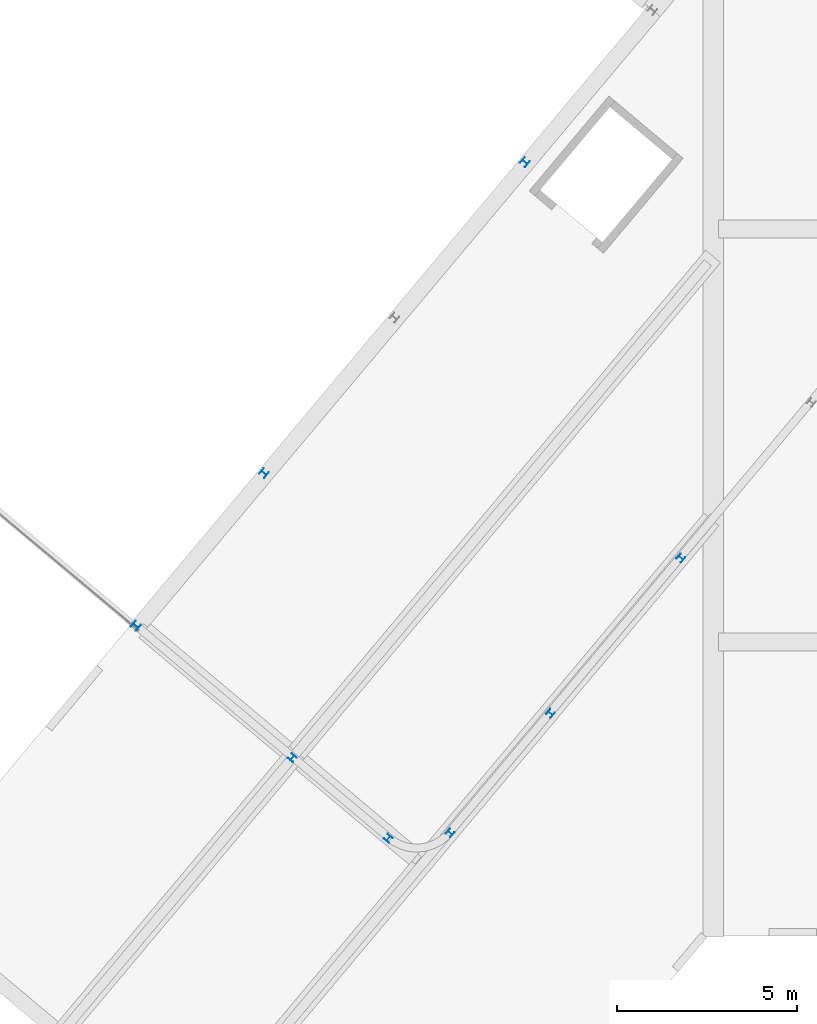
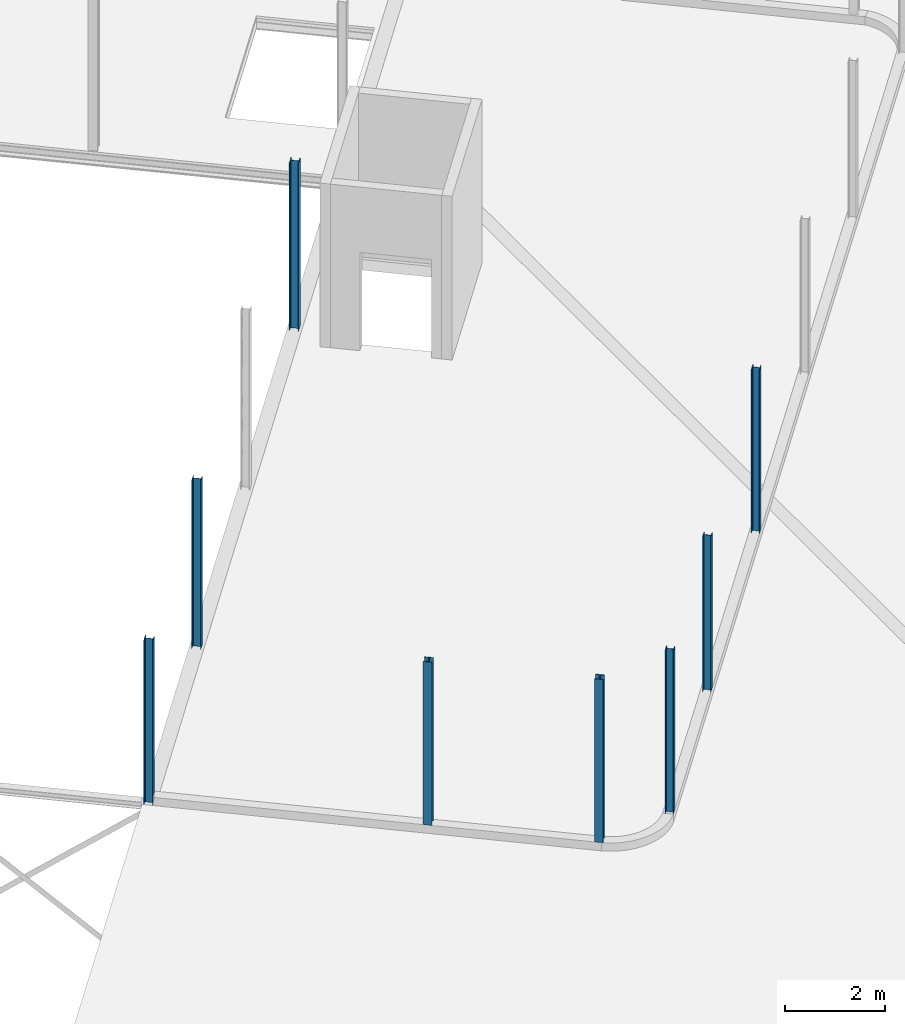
# One storey, part 1 of 11: 8 columns.
"""IFC2X3 building model written with IfcOpenShell, lengths in millimetres."""

from ifc_helpers import new_model, entity, si_unit, converted_unit, derived_unit, direction, frame, frame_2d, origin, origin_2d_with_axis, place, context, subcontext, project, spatial, i_section, extrude, source, transform, mapped, material, type_object, type_shapes, element, save


model = new_model("IFC2X3")

# Units and contexts
model_context = context("Model", 3, precision=0.01, world=origin(), true_north=direction((6.123031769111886e-17, 1.0)))
body_context = subcontext(model_context, "Body", "Model", "MODEL_VIEW")
ifc_project = project(units=[si_unit("LENGTHUNIT", "METRE", prefix="MILLI"), si_unit("AREAUNIT", "SQUARE_METRE"), si_unit("VOLUMEUNIT", "CUBIC_METRE"), derived_unit("MASSDENSITYUNIT", [(si_unit("MASSUNIT", "GRAM", prefix="KILO"), 1), (si_unit("LENGTHUNIT", "METRE"), -3)]), si_unit("MASSUNIT", "GRAM", prefix="KILO"), converted_unit("PLANEANGLEUNIT", "DEGREE", entity("IfcPlaneAngleMeasure", 0.017453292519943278), si_unit("PLANEANGLEUNIT", "RADIAN"), dimensions=[0, 0, 0, 0, 0, 0, 0])], contexts=[model_context])

# Site, building, storey
site_placement = place(None, origin())
site = spatial("IfcSite", under=ifc_project, at=site_placement, Name="Default", CompositionType="ELEMENT")
building_placement = place(site_placement, origin())
building = spatial("IfcBuilding", under=site, at=building_placement, Name="AT constructie", CompositionType="ELEMENT")
storey_placement = place(building_placement, frame((0.0, 0.0, 7728.0)))
storey = spatial("IfcBuildingStorey", under=building, at=storey_placement, Name="02 tweede verdieping", CompositionType="ELEMENT", Elevation=7728.0)

# Columns
ifc_material = material(Name="h2_staal_S355")
column_type_1 = type_object("IfcColumnType", Name="kolom_gen_HEA200", PredefinedType="COLUMN", material=ifc_material)
shared_shape_1 = source(origin(), body_context, "Body", "SweptSolid", [
    extrude(i_section(OverallWidth=199.99999999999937, OverallDepth=190.0000000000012, WebThickness=6.500000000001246, FlangeThickness=9.999999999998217, FilletRadius=18.0, at=origin_2d_with_axis()), frame((25144.6744617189, 20268.988429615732, 7678.0), z_axis=(0.0, 0.0, 1.0), x_axis=(-0.6427876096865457, -0.7660444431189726, 0.0)), (0.0, 0.0, 1.0), 4004.999999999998),
])
type_shapes(column_type_1, [shared_shape_1])
column_1_placement = place(storey_placement, frame((0.0, 0.0, -7728.0)))
element("IfcColumn", 1, at=column_1_placement, inside=storey, type_object=column_type_1, material=ifc_material, Name="NLRS_28_SC_TLB_kolom HEA_gen_AT:kolom_gen_HEA200", ObjectType="NLRS_28_SC_TLB_kolom HEA_gen_AT:kolom_gen_HEA200", context=body_context, shape_type="MappedRepresentation", body=[
    mapped(shared_shape_1, transform((0.0, 0.0, 0.0), scale=1.0)),
])
column_type_2 = type_object("IfcColumnType", Name="kolom_gen_HEA200", PredefinedType="COLUMN", material=ifc_material)
shared_shape_2 = source(origin(), body_context, "Body", "SweptSolid", [
    extrude(i_section(OverallWidth=199.99999999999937, OverallDepth=190.0000000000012, WebThickness=6.500000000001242, FlangeThickness=9.999999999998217, FilletRadius=18.0, at=frame_2d((-3.318234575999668e-12, -2.7782220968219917e-12), x_axis=(1.0, 0.0))), frame((35927.43661421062, 33119.38396293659, 7688.0), z_axis=(0.0, 0.0, 1.0), x_axis=(-0.6427876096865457, -0.7660444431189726, 0.0)), (0.0, 0.0, 1.0), 4092.3781134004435),
])
type_shapes(column_type_2, [shared_shape_2])
column_2_placement = place(storey_placement, frame((0.0, 0.0, -7728.0)))
element("IfcColumn", 2, at=column_2_placement, inside=storey, type_object=column_type_2, material=ifc_material, Name="NLRS_28_SC_TLB_kolom HEA_gen_AT:kolom_gen_HEA200", ObjectType="NLRS_28_SC_TLB_kolom HEA_gen_AT:kolom_gen_HEA200", context=body_context, shape_type="MappedRepresentation", body=[
    mapped(shared_shape_2, transform((0.0, 0.0, 0.0), scale=1.0)),
])
column_type_3 = type_object("IfcColumnType", Name="kolom_gen_HEA200", PredefinedType="COLUMN", material=ifc_material)
shared_shape_3 = source(origin(), body_context, "Body", "SweptSolid", [
    extrude(i_section(OverallWidth=199.99999999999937, OverallDepth=190.00000000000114, WebThickness=6.500000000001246, FlangeThickness=10.000000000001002, FilletRadius=18.0, at=frame_2d((5.329070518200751e-13, 6.103562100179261e-12), x_axis=(1.0, 0.0))), frame((28696.076005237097, 24501.383977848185, 7678.0), z_axis=(0.0, 0.0, 1.0), x_axis=(-0.6427876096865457, -0.7660444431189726, 0.0)), (0.0, 0.0, 1.0), 4102.378113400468),
])
type_shapes(column_type_3, [shared_shape_3])
column_3_placement = place(storey_placement, frame((0.0, 0.0, -7728.0)))
element("IfcColumn", 3, at=column_3_placement, inside=storey, type_object=column_type_3, material=ifc_material, Name="NLRS_28_SC_TLB_kolom HEA_gen_AT:kolom_gen_HEA200", ObjectType="NLRS_28_SC_TLB_kolom HEA_gen_AT:kolom_gen_HEA200", context=body_context, shape_type="MappedRepresentation", body=[
    mapped(shared_shape_3, transform((0.0, 0.0, 0.0), scale=1.0)),
])
column_type_4 = type_object("IfcColumnType", Name="kolom_gen_HEA180", PredefinedType="COLUMN", material=ifc_material)
shared_shape_4 = source(origin(), body_context, "Body", "SweptSolid", [
    extrude(i_section(OverallWidth=180.00000000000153, OverallDepth=170.99999999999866, WebThickness=5.9999999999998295, FlangeThickness=9.499999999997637, FilletRadius=15.000000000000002, at=frame_2d((2.7853275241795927e-12, -3.318234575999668e-12), x_axis=(1.0, 0.0))), frame((29482.65625607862, 16610.061100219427, 7878.0), z_axis=(0.0, 0.0, 1.0), x_axis=(0.7660444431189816, -0.6427876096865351, 0.0)), (0.0, 0.0, 1.0), 3984.9999999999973),
])
type_shapes(column_type_4, [shared_shape_4])
column_4_placement = place(storey_placement, frame((0.0, 0.0, -7728.0)))
element("IfcColumn", 4, at=column_4_placement, inside=storey, type_object=column_type_4, material=ifc_material, Name="NLRS_28_SC_TLB_kolom HEA_gen_AT:kolom_gen_HEA180", ObjectType="NLRS_28_SC_TLB_kolom HEA_gen_AT:kolom_gen_HEA180", context=body_context, shape_type="MappedRepresentation", body=[
    mapped(shared_shape_4, transform((0.0, 0.0, 0.0), scale=1.0)),
])
column_type_5 = type_object("IfcColumnType", Name="kolom_gen_HEA180", PredefinedType="COLUMN", material=ifc_material)
shared_shape_5 = source(origin(), body_context, "Body", "SweptSolid", [
    extrude(i_section(OverallWidth=179.9999999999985, OverallDepth=171.00000000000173, WebThickness=5.99999999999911, FlangeThickness=9.499999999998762, FilletRadius=15.000000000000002, at=origin_2d_with_axis()), frame((36635.743635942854, 17839.211797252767, 7878.0), z_axis=(0.0, 0.0, 1.0), x_axis=(0.6427876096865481, 0.7660444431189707, 0.0)), (0.0, 0.0, 1.0), 3780.0000000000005),
])
type_shapes(column_type_5, [shared_shape_5])
column_5_placement = place(storey_placement, frame((0.0, 0.0, -7728.0)))
element("IfcColumn", 5, at=column_5_placement, inside=storey, type_object=column_type_5, material=ifc_material, Name="NLRS_28_SC_TLB_kolom HEA_gen_AT:kolom_gen_HEA180", ObjectType="NLRS_28_SC_TLB_kolom HEA_gen_AT:kolom_gen_HEA180", context=body_context, shape_type="MappedRepresentation", body=[
    mapped(shared_shape_5, transform((0.0, 0.0, 0.0), scale=1.0)),
])
column_type_6 = type_object("IfcColumnType", Name="kolom_gen_HEA180", PredefinedType="COLUMN", material=ifc_material)
shared_shape_6 = source(origin(), body_context, "Body", "SweptSolid", [
    extrude(i_section(OverallWidth=180.00000000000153, OverallDepth=171.00000000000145, WebThickness=6.0000000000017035, FlangeThickness=9.499999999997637, FilletRadius=15.000000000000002, at=frame_2d((-1.3997691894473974e-12, 1.6555645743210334e-12), x_axis=(1.0, 0.0))), frame((32144.660695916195, 14376.374156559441, 7878.0), z_axis=(0.0, 0.0, 1.0), x_axis=(-0.7660444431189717, 0.6427876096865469, 0.0)), (0.0, 0.0, 1.0), 3984.9999999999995),
])
type_shapes(column_type_6, [shared_shape_6])
column_6_placement = place(storey_placement, frame((0.0, 0.0, -7728.0)))
element("IfcColumn", 6, at=column_6_placement, inside=storey, type_object=column_type_6, material=ifc_material, Name="NLRS_28_SC_TLB_kolom HEA_gen_AT:kolom_gen_HEA180", ObjectType="NLRS_28_SC_TLB_kolom HEA_gen_AT:kolom_gen_HEA180", context=body_context, shape_type="MappedRepresentation", body=[
    mapped(shared_shape_6, transform((0.0, 0.0, 0.0), scale=1.0)),
])
column_type_7 = type_object("IfcColumnType", Name="kolom_gen_HEA180", PredefinedType="COLUMN", material=ifc_material)
shared_shape_7 = source(origin(), body_context, "Body", "SweptSolid", [
    extrude(i_section(OverallWidth=179.9999999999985, OverallDepth=171.0000000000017, WebThickness=5.999999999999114, FlangeThickness=9.499999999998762, FilletRadius=15.000000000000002, at=frame_2d((-2.7924329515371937e-12, 3.311129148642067e-12), x_axis=(1.0, 0.0))), frame((33855.68722404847, 14526.069580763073, 7878.0), z_axis=(0.0, 0.0, 1.0), x_axis=(0.6427876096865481, 0.7660444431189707, 0.0)), (0.0, 0.0, 1.0), 3984.9999999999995),
])
type_shapes(column_type_7, [shared_shape_7])
column_7_placement = place(storey_placement, frame((0.0, 0.0, -7728.0)))
element("IfcColumn", 7, at=column_7_placement, inside=storey, type_object=column_type_7, material=ifc_material, Name="NLRS_28_SC_TLB_kolom HEA_gen_AT:kolom_gen_HEA180", ObjectType="NLRS_28_SC_TLB_kolom HEA_gen_AT:kolom_gen_HEA180", context=body_context, shape_type="MappedRepresentation", body=[
    mapped(shared_shape_7, transform((0.0, 0.0, 0.0), scale=1.0)),
])
column_type_8 = type_object("IfcColumnType", Name="kolom_gen_HEA180", PredefinedType="COLUMN", material=ifc_material)
shared_shape_8 = source(origin(), body_context, "Body", "SweptSolid", [
    extrude(i_section(OverallWidth=180.00000000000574, OverallDepth=170.99999999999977, WebThickness=5.999999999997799, FlangeThickness=9.500000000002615, FilletRadius=15.000000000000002, at=frame_2d((5.329070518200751e-13, 6.103562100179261e-12), x_axis=(1.0, 0.0))), frame((40251.42394042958, 22148.21178979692, 7878.0), z_axis=(0.0, 0.0, 1.0), x_axis=(0.6427876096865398, 0.7660444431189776, 0.0)), (0.0, 0.0, 1.0), 3992.4178778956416),
])
type_shapes(column_type_8, [shared_shape_8])
column_8_placement = place(storey_placement, frame((0.0, 0.0, -7728.0)))
element("IfcColumn", 8, at=column_8_placement, inside=storey, type_object=column_type_8, material=ifc_material, Name="NLRS_28_SC_TLB_kolom HEA_gen_AT:kolom_gen_HEA180", ObjectType="NLRS_28_SC_TLB_kolom HEA_gen_AT:kolom_gen_HEA180", context=body_context, shape_type="MappedRepresentation", body=[
    mapped(shared_shape_8, transform((0.0, 0.0, 0.0), scale=1.0)),
])

save(model, "model.ifc")
